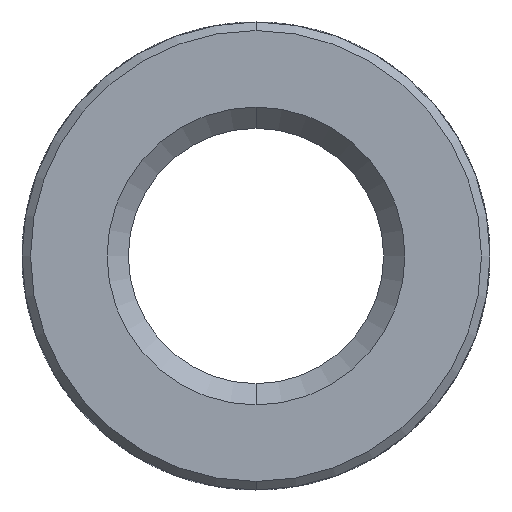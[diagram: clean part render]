
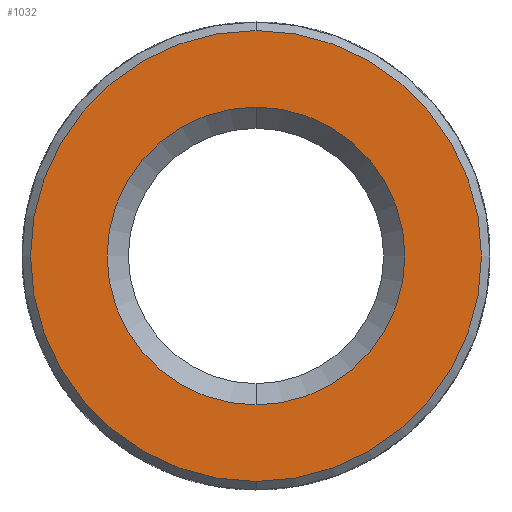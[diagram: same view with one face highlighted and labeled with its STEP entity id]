
A CAD part, front view. The second image highlights one B-rep face of the part: STEP entity #1032.
In plain terms, the highlighted planar face has unit normal (0, -1, 0).
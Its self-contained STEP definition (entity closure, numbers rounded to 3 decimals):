
#473 = DIRECTION ( 'NONE',  ( 0., 0., -1. ) ) ;
#474 = DIRECTION ( 'NONE',  ( 0., -1., 0. ) ) ;
#501 = AXIS2_PLACEMENT_3D ( 'NONE', #1952, #2601, #791 ) ;
#620 = CARTESIAN_POINT ( 'NONE',  ( 0., -7.3, -1.75 ) ) ;
#660 = EDGE_CURVE ( 'NONE', #1527, #2149, #2931, .T. ) ;
#791 = DIRECTION ( 'NONE',  ( 0., 0., -1. ) ) ;
#858 = CARTESIAN_POINT ( 'NONE',  ( 0., -7.3, 1.75 ) ) ;
#872 = FACE_OUTER_BOUND ( 'NONE', #1628, .T. ) ;
#1032 = ADVANCED_FACE ( 'NONE', ( #872, #1332 ), #1662, .T. ) ;
#1199 = ORIENTED_EDGE ( 'NONE', *, *, #3299, .T. ) ;
#1307 = AXIS2_PLACEMENT_3D ( 'NONE', #1994, #2300, #473 ) ;
#1332 = FACE_BOUND ( 'NONE', #2016, .T. ) ;
#1387 = DIRECTION ( 'NONE',  ( 0., 0., -1. ) ) ;
#1527 = VERTEX_POINT ( 'NONE', #3460 ) ;
#1628 = EDGE_LOOP ( 'NONE', ( #1199, #2030 ) ) ;
#1647 = CIRCLE ( 'NONE', #501, 1.75 ) ;
#1662 = PLANE ( 'NONE',  #1307 ) ;
#1696 = AXIS2_PLACEMENT_3D ( 'NONE', #2241, #474, #3501 ) ;
#1723 = DIRECTION ( 'NONE',  ( 0., 1., 0. ) ) ;
#1952 = CARTESIAN_POINT ( 'NONE',  ( 0., -7.3, 0. ) ) ;
#1994 = CARTESIAN_POINT ( 'NONE',  ( 0., -7.3, 2.75 ) ) ;
#2016 = EDGE_LOOP ( 'NONE', ( #2628, #3083 ) ) ;
#2030 = ORIENTED_EDGE ( 'NONE', *, *, #660, .T. ) ;
#2053 = CARTESIAN_POINT ( 'NONE',  ( 0., -7.3, 0. ) ) ;
#2122 = EDGE_CURVE ( 'NONE', #2902, #3684, #3262, .T. ) ;
#2149 = VERTEX_POINT ( 'NONE', #2342 ) ;
#2161 = AXIS2_PLACEMENT_3D ( 'NONE', #2304, #2932, #1387 ) ;
#2241 = CARTESIAN_POINT ( 'NONE',  ( 0., -7.3, 0. ) ) ;
#2300 = DIRECTION ( 'NONE',  ( 0., -1., 0. ) ) ;
#2304 = CARTESIAN_POINT ( 'NONE',  ( 0., -7.3, 0. ) ) ;
#2342 = CARTESIAN_POINT ( 'NONE',  ( 0., -7.3, 2.65 ) ) ;
#2369 = AXIS2_PLACEMENT_3D ( 'NONE', #2053, #1723, #3554 ) ;
#2601 = DIRECTION ( 'NONE',  ( 0., 1., 0. ) ) ;
#2628 = ORIENTED_EDGE ( 'NONE', *, *, #2122, .T. ) ;
#2902 = VERTEX_POINT ( 'NONE', #620 ) ;
#2931 = CIRCLE ( 'NONE', #2161, 2.65 ) ;
#2932 = DIRECTION ( 'NONE',  ( 0., -1., 0. ) ) ;
#3083 = ORIENTED_EDGE ( 'NONE', *, *, #3614, .T. ) ;
#3262 = CIRCLE ( 'NONE', #2369, 1.75 ) ;
#3299 = EDGE_CURVE ( 'NONE', #2149, #1527, #3991, .T. ) ;
#3460 = CARTESIAN_POINT ( 'NONE',  ( 0., -7.3, -2.65 ) ) ;
#3501 = DIRECTION ( 'NONE',  ( 0., 0., -1. ) ) ;
#3554 = DIRECTION ( 'NONE',  ( 0., 0., -1. ) ) ;
#3614 = EDGE_CURVE ( 'NONE', #3684, #2902, #1647, .T. ) ;
#3684 = VERTEX_POINT ( 'NONE', #858 ) ;
#3991 = CIRCLE ( 'NONE', #1696, 2.65 ) ;
